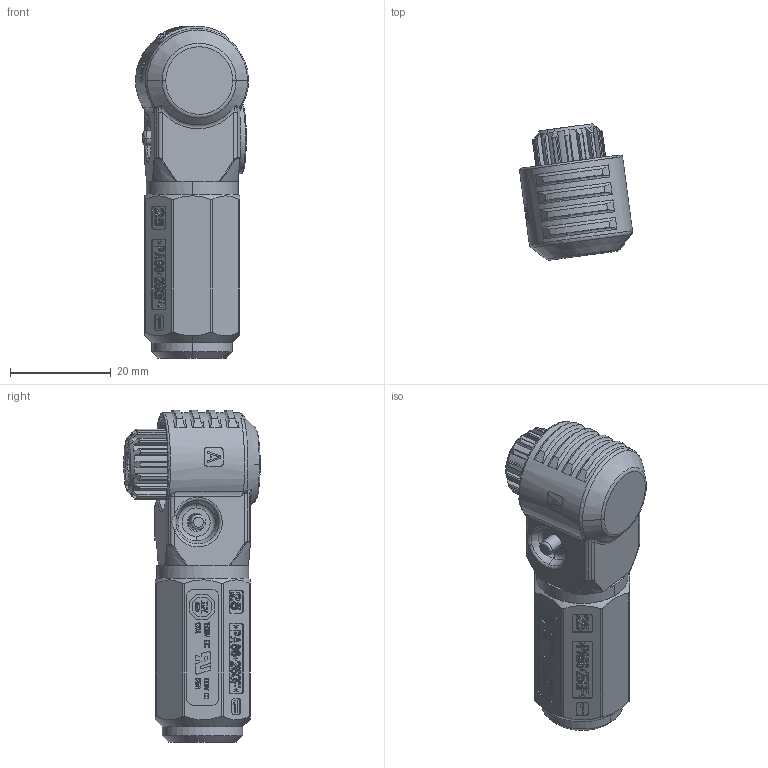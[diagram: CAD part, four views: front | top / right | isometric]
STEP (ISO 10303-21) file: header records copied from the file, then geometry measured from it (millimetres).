
FILE_DESCRIPTION((''),'2;1');
FILE_NAME('HRCT-P0157-A25_1_1','2024-05-30T09:28:04',('zc'),(''),'CREO PARAMETRIC BY PTC INC, 2018050','CREO PARAMETRIC BY PTC INC, 2018050','');
FILE_SCHEMA(('CONFIG_CONTROL_DESIGN'));
Length unit declared in the file: millimetre
Products named in the file (1): HRCT-P0157-A25_1_1
Bounding box: 22.43 x 27.09 x 65.92 mm (x, y, z)
Volume: 16131.7 mm3; surface area: 9556.1 mm2
Topology: 1 solids, 4 shells, 2850 faces, 8216 edges, 5461 vertices
Faces by surface type: plane 1817, extrusion 510, cylinder 244, torus 116, cone 88, bspline 72, sphere 3
Entity records: 105983 total; most frequent: CARTESIAN_POINT 34760, ORIENTED_EDGE 16424, DIRECTION 11898, EDGE_CURVE 8212, VECTOR 5744, VERTEX_POINT 5461, LINE 5234, AXIS2_PLACEMENT_3D 3077
